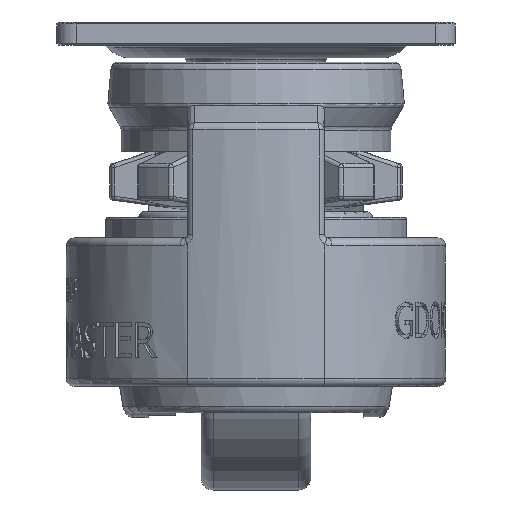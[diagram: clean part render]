
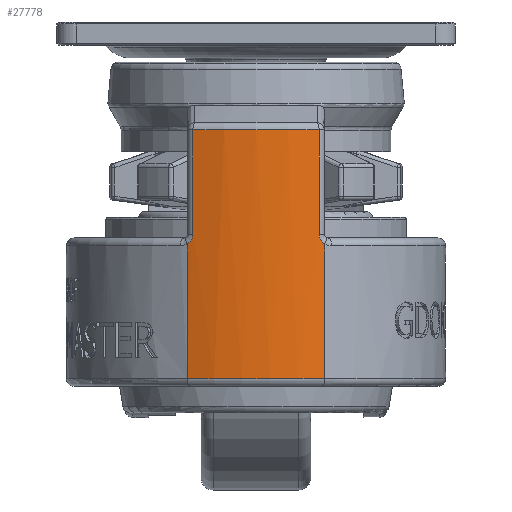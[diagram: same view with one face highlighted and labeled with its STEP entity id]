
A CAD part, left-side view. The second image highlights one B-rep face of the part: STEP entity #27778.
In plain terms, the highlighted cylindrical face has radius 51 mm (diameter 102 mm), a partial arc.
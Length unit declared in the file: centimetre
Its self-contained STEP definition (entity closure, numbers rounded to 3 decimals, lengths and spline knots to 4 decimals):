
#1495=B_SPLINE_CURVE_WITH_KNOTS('',3,(#107337,#107338,#107339,#107340,#107341,
#107342,#107343,#107344,#107345,#107346,#107347,#107348,#107349,#107350,
#107351,#107352),.UNSPECIFIED.,.F.,.F.,(4,2,2,2,2,2,2,4),(4.2777,
4.5577,4.9559,5.3541,5.956,6.5721,
6.9572,7.3411),.UNSPECIFIED.);
#1496=B_SPLINE_CURVE_WITH_KNOTS('',3,(#107353,#107354,#107355,#107356,#107357,
#107358,#107359,#107360,#107361,#107362,#107363,#107364,#107365,#107366,
#107367,#107368,#107369,#107370,#107371,#107372,#107373,#107374,#107375,
#107376,#107377,#107378,#107379,#107380,#107381,#107382,#107383),
 .UNSPECIFIED.,.F.,.F.,(4,3,3,3,3,3,3,3,3,3,4),(5.2254,5.28,
5.8153,5.8617,6.5739,6.8797,6.9071,
7.2402,7.6279,8.2481,8.2906),
 .UNSPECIFIED.);
#2175=CYLINDRICAL_SURFACE('',#30596,5.1);
#3607=CIRCLE('',#30502,5.1);
#3655=CIRCLE('',#30597,5.1);
#5378=FACE_OUTER_BOUND('',#7147,.T.);
#7147=EDGE_LOOP('',(#23253,#23254,#23255,#23256,#23257,#23258,#23259,#23260));
#8175=LINE('',#89811,#9460);
#8499=LINE('',#106463,#9784);
#8559=LINE('',#107219,#9844);
#8566=LINE('',#107336,#9851);
#9460=VECTOR('',#36050,3.4459);
#9784=VECTOR('',#36906,3.4459);
#9844=VECTOR('',#37268,2.6626);
#9851=VECTOR('',#37291,2.6626);
#11626=VERTEX_POINT('',#89779);
#11632=VERTEX_POINT('',#89809);
#12083=VERTEX_POINT('',#106459);
#12085=VERTEX_POINT('',#106462);
#12239=VERTEX_POINT('',#107213);
#12241=VERTEX_POINT('',#107217);
#12254=VERTEX_POINT('',#107333);
#12255=VERTEX_POINT('',#107335);
#15122=EDGE_CURVE('',#11626,#11632,#8175,.T.);
#15799=EDGE_CURVE('',#12083,#12085,#8499,.T.);
#15860=EDGE_CURVE('',#12085,#11632,#3607,.T.);
#15991=EDGE_CURVE('',#12241,#12239,#8559,.T.);
#16007=EDGE_CURVE('',#12254,#12241,#3655,.T.);
#16008=EDGE_CURVE('',#12255,#12254,#8566,.T.);
#16009=EDGE_CURVE('',#11626,#12255,#1495,.T.);
#16010=EDGE_CURVE('',#12239,#12083,#1496,.T.);
#23253=ORIENTED_EDGE('',*,*,#16007,.F.);
#23254=ORIENTED_EDGE('',*,*,#16008,.F.);
#23255=ORIENTED_EDGE('',*,*,#16009,.F.);
#23256=ORIENTED_EDGE('',*,*,#15122,.T.);
#23257=ORIENTED_EDGE('',*,*,#15860,.F.);
#23258=ORIENTED_EDGE('',*,*,#15799,.F.);
#23259=ORIENTED_EDGE('',*,*,#16010,.F.);
#23260=ORIENTED_EDGE('',*,*,#15991,.F.);
#27778=ADVANCED_FACE('',(#5378),#2175,.T.);
#30502=AXIS2_PLACEMENT_3D('',#106711,#37043,#37044);
#30596=AXIS2_PLACEMENT_3D('',#107332,#37287,#37288);
#30597=AXIS2_PLACEMENT_3D('',#107334,#37289,#37290);
#36050=DIRECTION('',(0.,0.,-1.));
#36906=DIRECTION('',(0.,0.,-1.));
#37043=DIRECTION('center_axis',(0.,0.,-1.));
#37044=DIRECTION('ref_axis',(-1.,0.,0.));
#37268=DIRECTION('',(0.,0.,-1.));
#37287=DIRECTION('center_axis',(0.,0.,1.));
#37288=DIRECTION('ref_axis',(1.,0.,0.));
#37289=DIRECTION('center_axis',(0.,0.,1.));
#37290=DIRECTION('ref_axis',(-1.,0.,0.));
#37291=DIRECTION('',(0.,0.,1.));
#89779=CARTESIAN_POINT('',(-7.338,1.8605,0.3079));
#89809=CARTESIAN_POINT('',(-7.338,1.8605,-3.138));
#89811=CARTESIAN_POINT('',(-7.338,1.8605,0.3079));
#106459=CARTESIAN_POINT('',(-7.338,-1.6586,0.3079));
#106462=CARTESIAN_POINT('',(-7.338,-1.6586,-3.138));
#106463=CARTESIAN_POINT('',(-7.338,-1.6586,0.3079));
#106711=CARTESIAN_POINT('Origin',(-2.5511,0.101,-3.138));
#107213=CARTESIAN_POINT('',(-7.3892,-1.5123,0.562));
#107217=CARTESIAN_POINT('',(-7.3892,-1.5123,3.2246));
#107219=CARTESIAN_POINT('',(-7.3892,-1.5123,3.2246));
#107332=CARTESIAN_POINT('Origin',(-2.5511,0.101,-3.338));
#107333=CARTESIAN_POINT('',(-7.3892,1.7142,3.2246));
#107334=CARTESIAN_POINT('Origin',(-2.5511,0.101,3.2246));
#107335=CARTESIAN_POINT('',(-7.3892,1.7142,0.562));
#107336=CARTESIAN_POINT('',(-7.3892,1.7142,0.562));
#107337=CARTESIAN_POINT('Ctrl Pts',(-7.338,1.8605,
0.3079));
#107338=CARTESIAN_POINT('Ctrl Pts',(-7.3409,1.8526,
0.3127));
#107339=CARTESIAN_POINT('Ctrl Pts',(-7.3437,1.8448,
0.3178));
#107340=CARTESIAN_POINT('Ctrl Pts',(-7.3503,1.8267,0.3311));
#107341=CARTESIAN_POINT('Ctrl Pts',(-7.3539,1.8165,
0.3396));
#107342=CARTESIAN_POINT('Ctrl Pts',(-7.3607,1.7974,
0.3577));
#107343=CARTESIAN_POINT('Ctrl Pts',(-7.3639,1.7884,
0.3674));
#107344=CARTESIAN_POINT('Ctrl Pts',(-7.3712,1.7675,
0.3933));
#107345=CARTESIAN_POINT('Ctrl Pts',(-7.375,1.7563,
0.4103));
#107346=CARTESIAN_POINT('Ctrl Pts',(-7.3814,1.7375,0.4464));
#107347=CARTESIAN_POINT('Ctrl Pts',(-7.3839,1.73,
0.4656));
#107348=CARTESIAN_POINT('Ctrl Pts',(-7.3869,1.7211,
0.498));
#107349=CARTESIAN_POINT('Ctrl Pts',(-7.3878,1.7185,
0.5107));
#107350=CARTESIAN_POINT('Ctrl Pts',(-7.3889,1.7151,
0.5363));
#107351=CARTESIAN_POINT('Ctrl Pts',(-7.3892,1.7142,
0.5492));
#107352=CARTESIAN_POINT('Ctrl Pts',(-7.3892,1.7142,
0.562));
#107353=CARTESIAN_POINT('Ctrl Pts',(-7.3892,-1.5123,
0.562));
#107354=CARTESIAN_POINT('Ctrl Pts',(-7.3892,-1.5123,
0.5602));
#107355=CARTESIAN_POINT('Ctrl Pts',(-7.3892,-1.5123,
0.5584));
#107356=CARTESIAN_POINT('Ctrl Pts',(-7.3892,-1.5124,
0.5565));
#107357=CARTESIAN_POINT('Ctrl Pts',(-7.3891,-1.5127,
0.5387));
#107358=CARTESIAN_POINT('Ctrl Pts',(-7.3884,-1.5147,
0.5207));
#107359=CARTESIAN_POINT('Ctrl Pts',(-7.3872,-1.5184,
0.5032));
#107360=CARTESIAN_POINT('Ctrl Pts',(-7.3871,-1.5187,
0.5016));
#107361=CARTESIAN_POINT('Ctrl Pts',(-7.387,-1.519,
0.5001));
#107362=CARTESIAN_POINT('Ctrl Pts',(-7.3869,-1.5194,
0.4986));
#107363=CARTESIAN_POINT('Ctrl Pts',(-7.3851,-1.5246,
0.4753));
#107364=CARTESIAN_POINT('Ctrl Pts',(-7.3824,-1.5327,
0.4529));
#107365=CARTESIAN_POINT('Ctrl Pts',(-7.3788,-1.5434,
0.4316));
#107366=CARTESIAN_POINT('Ctrl Pts',(-7.3772,-1.548,
0.4224));
#107367=CARTESIAN_POINT('Ctrl Pts',(-7.3755,-1.5531,
0.4135));
#107368=CARTESIAN_POINT('Ctrl Pts',(-7.3736,-1.5586,
0.4049));
#107369=CARTESIAN_POINT('Ctrl Pts',(-7.3734,-1.559,
0.4041));
#107370=CARTESIAN_POINT('Ctrl Pts',(-7.3732,-1.5595,
0.4033));
#107371=CARTESIAN_POINT('Ctrl Pts',(-7.3731,-1.56,
0.4026));
#107372=CARTESIAN_POINT('Ctrl Pts',(-7.371,-1.5661,
0.3933));
#107373=CARTESIAN_POINT('Ctrl Pts',(-7.3687,-1.5727,
0.3844));
#107374=CARTESIAN_POINT('Ctrl Pts',(-7.3662,-1.5797,
0.3758));
#107375=CARTESIAN_POINT('Ctrl Pts',(-7.3634,-1.5879,
0.3659));
#107376=CARTESIAN_POINT('Ctrl Pts',(-7.3603,-1.5967,
0.3565));
#107377=CARTESIAN_POINT('Ctrl Pts',(-7.3569,-1.6061,
0.3476));
#107378=CARTESIAN_POINT('Ctrl Pts',(-7.3516,-1.6212,
0.3335));
#107379=CARTESIAN_POINT('Ctrl Pts',(-7.3457,-1.6376,
0.3209));
#107380=CARTESIAN_POINT('Ctrl Pts',(-7.3393,-1.655,
0.3101));
#107381=CARTESIAN_POINT('Ctrl Pts',(-7.3389,-1.6562,
0.3093));
#107382=CARTESIAN_POINT('Ctrl Pts',(-7.3384,-1.6574,
0.3086));
#107383=CARTESIAN_POINT('Ctrl Pts',(-7.338,-1.6586,
0.3079));
